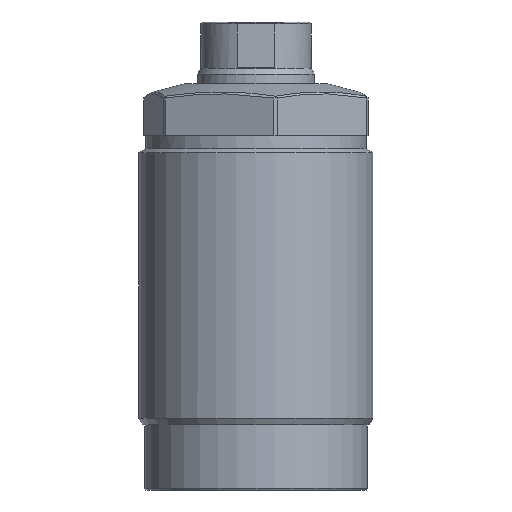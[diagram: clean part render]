
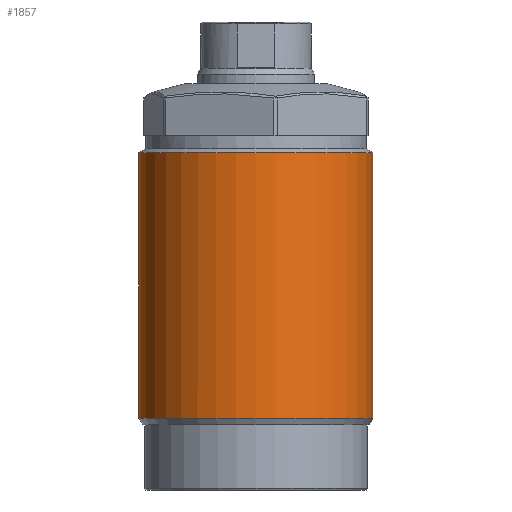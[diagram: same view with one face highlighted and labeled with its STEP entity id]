
A CAD part, front view. The second image highlights one B-rep face of the part: STEP entity #1857.
In plain terms, the highlighted cylindrical face has radius 18 mm (diameter 36 mm), a partial arc.
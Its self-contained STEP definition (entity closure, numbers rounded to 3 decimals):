
#72 = EDGE_CURVE ( 'NONE', #2712, #331, #1703, .T. ) ;
#88 = DIRECTION ( 'NONE',  ( 0., 0., 1. ) ) ;
#318 = EDGE_LOOP ( 'NONE', ( #1738, #1749, #524, #2416 ) ) ;
#331 = VERTEX_POINT ( 'NONE', #1662 ) ;
#459 = DIRECTION ( 'NONE',  ( 0., 0., -1. ) ) ;
#524 = ORIENTED_EDGE ( 'NONE', *, *, #2253, .T. ) ;
#605 = CIRCLE ( 'NONE', #2830, 18. ) ;
#641 = CARTESIAN_POINT ( 'NONE',  ( 0., 0., 51.923 ) ) ;
#754 = FACE_OUTER_BOUND ( 'NONE', #318, .T. ) ;
#809 = LINE ( 'NONE', #1892, #2615 ) ;
#897 = CARTESIAN_POINT ( 'NONE',  ( 0., 0., 11. ) ) ;
#1227 = VERTEX_POINT ( 'NONE', #3313 ) ;
#1363 = DIRECTION ( 'NONE',  ( -1., 0., 0. ) ) ;
#1470 = EDGE_CURVE ( 'NONE', #1876, #1227, #605, .T. ) ;
#1566 = EDGE_CURVE ( 'NONE', #2712, #1227, #2692, .T. ) ;
#1662 = CARTESIAN_POINT ( 'NONE',  ( -18., 0., 51.923 ) ) ;
#1703 = CIRCLE ( 'NONE', #3352, 18. ) ;
#1738 = ORIENTED_EDGE ( 'NONE', *, *, #1566, .F. ) ;
#1749 = ORIENTED_EDGE ( 'NONE', *, *, #72, .T. ) ;
#1854 = AXIS2_PLACEMENT_3D ( 'NONE', #3222, #1877, #1363 ) ;
#1857 = ADVANCED_FACE ( 'NONE', ( #754 ), #2408, .T. ) ;
#1876 = VERTEX_POINT ( 'NONE', #2761 ) ;
#1877 = DIRECTION ( 'NONE',  ( 0., 0., -1. ) ) ;
#1892 = CARTESIAN_POINT ( 'NONE',  ( -18., 0., 54.5 ) ) ;
#2253 = EDGE_CURVE ( 'NONE', #331, #1876, #809, .T. ) ;
#2353 = CARTESIAN_POINT ( 'NONE',  ( 18., 0., 54.5 ) ) ;
#2397 = CARTESIAN_POINT ( 'NONE',  ( 18., 0., 51.923 ) ) ;
#2408 = CYLINDRICAL_SURFACE ( 'NONE', #1854, 18. ) ;
#2416 = ORIENTED_EDGE ( 'NONE', *, *, #1470, .T. ) ;
#2439 = VECTOR ( 'NONE', #459, 1000. ) ;
#2615 = VECTOR ( 'NONE', #2758, 1000. ) ;
#2692 = LINE ( 'NONE', #2353, #2439 ) ;
#2712 = VERTEX_POINT ( 'NONE', #2397 ) ;
#2758 = DIRECTION ( 'NONE',  ( 0., 0., -1. ) ) ;
#2761 = CARTESIAN_POINT ( 'NONE',  ( -18., 0., 11. ) ) ;
#2830 = AXIS2_PLACEMENT_3D ( 'NONE', #897, #88, #3378 ) ;
#2848 = DIRECTION ( 'NONE',  ( -1., 0., 0. ) ) ;
#3222 = CARTESIAN_POINT ( 'NONE',  ( 0., 0., 54.5 ) ) ;
#3313 = CARTESIAN_POINT ( 'NONE',  ( 18., 0., 11. ) ) ;
#3352 = AXIS2_PLACEMENT_3D ( 'NONE', #641, #3427, #2848 ) ;
#3378 = DIRECTION ( 'NONE',  ( -1., 0., 0. ) ) ;
#3427 = DIRECTION ( 'NONE',  ( 0., 0., -1. ) ) ;
